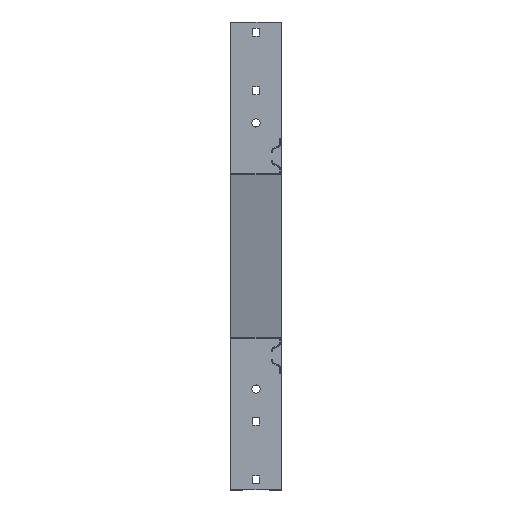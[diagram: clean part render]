
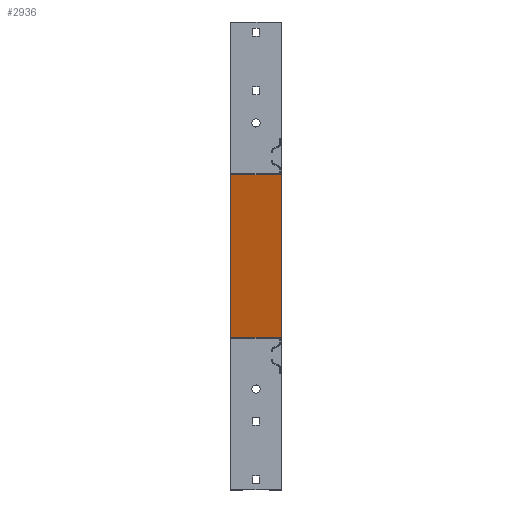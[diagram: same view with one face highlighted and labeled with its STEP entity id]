
A CAD part, left-side view. The second image highlights one B-rep face of the part: STEP entity #2936.
In plain terms, the highlighted planar face has unit normal (-0.966, 0, -0.259) as drawn and (0.966, 0, -0.259) by its records, which use the part's own axes.
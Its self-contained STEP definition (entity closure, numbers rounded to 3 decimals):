
#383 = VECTOR ( 'NONE', #8483, 1000. ) ;
#423 = LINE ( 'NONE', #4798, #9165 ) ;
#673 = CARTESIAN_POINT ( 'NONE',  ( 301.881, 0., -0.708 ) ) ;
#907 = CARTESIAN_POINT ( 'NONE',  ( 227.051, 87., -280.073 ) ) ;
#1276 = FACE_OUTER_BOUND ( 'NONE', #9329, .T. ) ;
#1615 = LINE ( 'NONE', #4554, #1774 ) ;
#1724 = ORIENTED_EDGE ( 'NONE', *, *, #7427, .T. ) ;
#1774 = VECTOR ( 'NONE', #7488, 1000. ) ;
#2041 = LINE ( 'NONE', #4186, #383 ) ;
#2326 = ORIENTED_EDGE ( 'NONE', *, *, #3931, .F. ) ;
#2501 = EDGE_CURVE ( 'NONE', #3769, #3668, #4709, .T. ) ;
#2639 = ORIENTED_EDGE ( 'NONE', *, *, #6986, .T. ) ;
#2936 = ADVANCED_FACE ( 'NONE', ( #1276 ), #5697, .F. ) ;
#3668 = VERTEX_POINT ( 'NONE', #907 ) ;
#3769 = VERTEX_POINT ( 'NONE', #5562 ) ;
#3776 = ORIENTED_EDGE ( 'NONE', *, *, #2501, .F. ) ;
#3931 = EDGE_CURVE ( 'NONE', #5492, #3769, #423, .T. ) ;
#4186 = CARTESIAN_POINT ( 'NONE',  ( 301.932, 0., -0.517 ) ) ;
#4554 = CARTESIAN_POINT ( 'NONE',  ( 227.051, 0., -280.073 ) ) ;
#4657 = CARTESIAN_POINT ( 'NONE',  ( 301.932, 87., -0.517 ) ) ;
#4709 = LINE ( 'NONE', #4657, #6749 ) ;
#4798 = CARTESIAN_POINT ( 'NONE',  ( 301.881, 0., -0.708 ) ) ;
#5492 = VERTEX_POINT ( 'NONE', #673 ) ;
#5562 = CARTESIAN_POINT ( 'NONE',  ( 301.881, 87., -0.708 ) ) ;
#5697 = PLANE ( 'NONE',  #7694 ) ;
#6370 = DIRECTION ( 'NONE',  ( 0.259, 0., 0.966 ) ) ;
#6560 = CARTESIAN_POINT ( 'NONE',  ( 227.051, 0., -280.073 ) ) ;
#6749 = VECTOR ( 'NONE', #7692, 1000. ) ;
#6809 = VERTEX_POINT ( 'NONE', #6560 ) ;
#6954 = DIRECTION ( 'NONE',  ( 0., 1., 0. ) ) ;
#6986 = EDGE_CURVE ( 'NONE', #5492, #6809, #2041, .T. ) ;
#7054 = CARTESIAN_POINT ( 'NONE',  ( 301.932, 87., -0.517 ) ) ;
#7191 = DIRECTION ( 'NONE',  ( -0.966, 0., 0.259 ) ) ;
#7427 = EDGE_CURVE ( 'NONE', #6809, #3668, #1615, .T. ) ;
#7488 = DIRECTION ( 'NONE',  ( 0., 1., 0. ) ) ;
#7692 = DIRECTION ( 'NONE',  ( -0.259, 0., -0.966 ) ) ;
#7694 = AXIS2_PLACEMENT_3D ( 'NONE', #7054, #7191, #6370 ) ;
#8483 = DIRECTION ( 'NONE',  ( -0.259, 0., -0.966 ) ) ;
#9165 = VECTOR ( 'NONE', #6954, 1000. ) ;
#9329 = EDGE_LOOP ( 'NONE', ( #2639, #1724, #3776, #2326 ) ) ;
